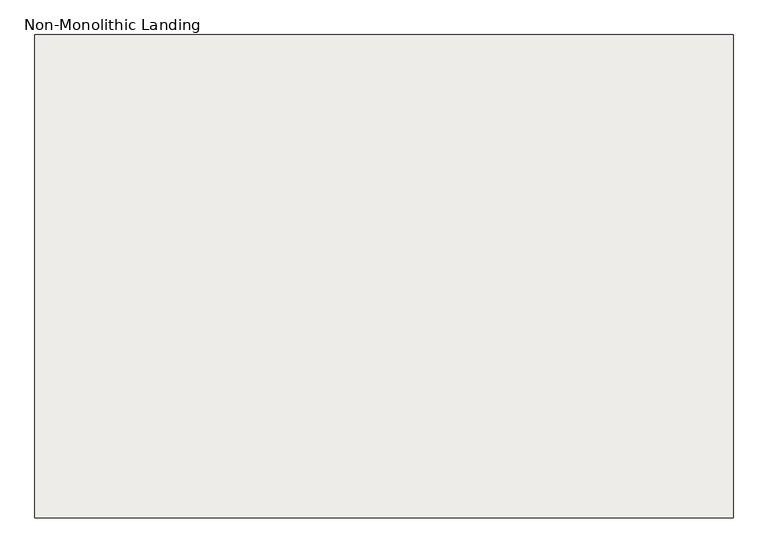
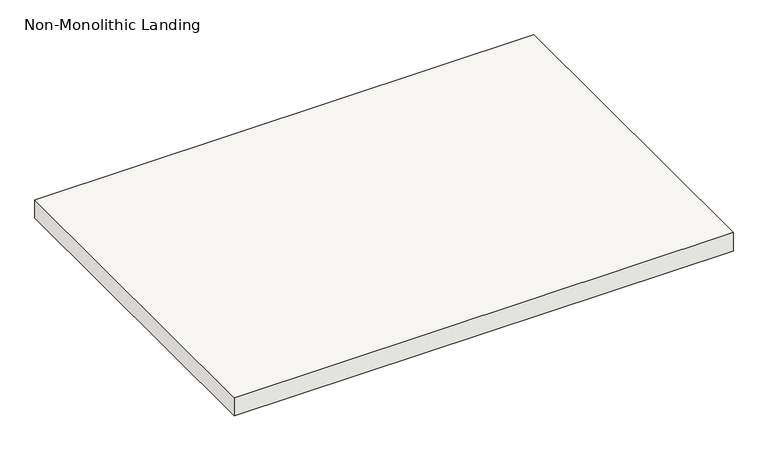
"""IFC4 building model written with IfcOpenShell, lengths in millimetres: slab geometry, Non-Monolithic Landing."""

from ifc_helpers import new_model, si_unit, frame, origin, place, context, project, spatial, polyline, outline, extrude, source, transform, mapped, element, save


def non_monolithic_landing_ba18e954(model_context):
    return source(origin(), model_context, "Body", "SweptSolid", [
        extrude(outline(polyline([(88025.1145262, -17954.2990002), (89345.9145262, -17954.2990002), (89345.9145262, -18868.6990002), (88025.1145262, -18868.6990002), (88025.1145262, -17954.2990002)])), frame((0.0, 0.0, 2126.3428571), z_axis=(0.0, 0.0, 1.0), x_axis=(1.0, 0.0, 0.0)), (0.0, 0.0, 1.0), 50.8),
    ])


if __name__ == "__main__":
    model = new_model("IFC4")
    model_context = context("Model", 3, world=origin())
    ifc_project = project(units=[si_unit("LENGTHUNIT", "METRE", prefix="MILLI")], contexts=[model_context])
    site = spatial("IfcSite", under=ifc_project)
    building = spatial("IfcBuilding", under=site)
    placement = place(None, origin())
    non_monolithic_landing_shape = non_monolithic_landing_ba18e954(model_context)
    element("IfcSlab", 1, ObjectType="Non-Monolithic Landing", at=placement, inside=building, context=model_context, shape_type="MappedRepresentation", body=[
        mapped(non_monolithic_landing_shape, transform((0.0, 0.0, 0.0), x_axis=(1.0, 0.0, 0.0), y_axis=(0.0, 1.0, 0.0), z_axis=(0.0, 0.0, 1.0))),
    ])
    save(model, "model.ifc")
